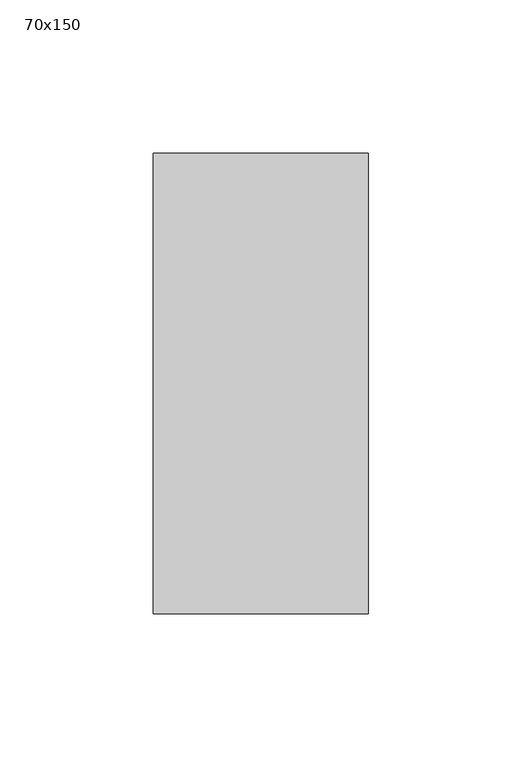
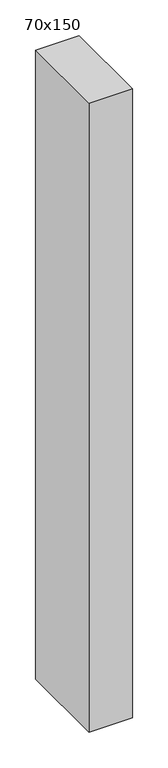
"""IFC4 building model written with IfcOpenShell, lengths in millimetres: member geometry, 長方形のマリオン : 70x150."""

from ifc_helpers import new_model, si_unit, frame, origin, place, context, project, spatial, polyline, outline, extrude, source, transform, mapped, element, save


def member_70x150_851c8a9b(model_context):
    return source(origin(), model_context, "Body", "SweptSolid", [
        extrude(outline(polyline([(35.0, 75.0), (35.0, -75.0), (-35.0, -75.0), (-35.0, 75.0), (35.0, 75.0)])), frame((0.0, 0.0, -1075.0), z_axis=(0.0, 0.0, 1.0), x_axis=(1.0, 0.0, 0.0)), (0.0, 0.0, 1.0), 1075.0),
    ])


if __name__ == "__main__":
    model = new_model("IFC4")
    model_context = context("Model", 3, world=origin())
    ifc_project = project(units=[si_unit("LENGTHUNIT", "METRE", prefix="MILLI")], contexts=[model_context])
    site = spatial("IfcSite", under=ifc_project)
    building = spatial("IfcBuilding", under=site)
    placement = place(None, origin())
    member_70x150_shape = member_70x150_851c8a9b(model_context)
    element("IfcMember", 1, ObjectType="長方形のマリオン : 70x150", at=placement, inside=building, context=model_context, shape_type="MappedRepresentation", body=[
        mapped(member_70x150_shape, transform((0.0, 0.0, 0.0), x_axis=(1.0, 0.0, 0.0), y_axis=(0.0, 1.0, 0.0), z_axis=(0.0, 0.0, 1.0))),
    ])
    save(model, "model.ifc")
